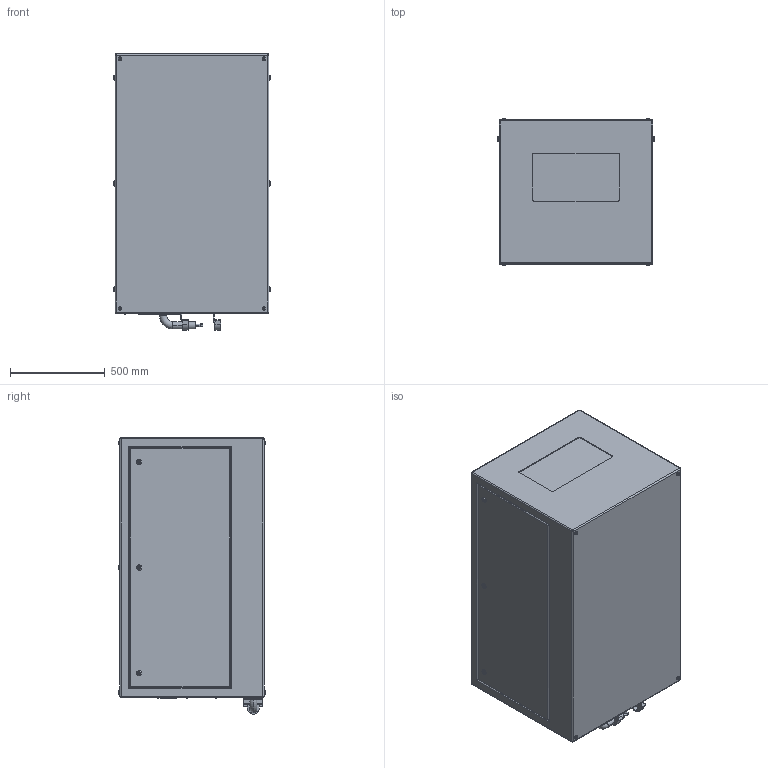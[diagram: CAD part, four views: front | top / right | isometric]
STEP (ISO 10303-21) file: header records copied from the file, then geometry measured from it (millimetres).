
FILE_DESCRIPTION (( 'STEP AP214' ), '1' );
FILE_NAME ('Oasis 59.305.L R02.STEP', '2022-09-12T23:40:39', ( '' ), ( '' ), 'SwSTEP 2.0', 'SolidWorks 2020', '' );
FILE_SCHEMA (( 'AUTOMOTIVE_DESIGN' ));
Length unit declared in the file: inch
Products named in the file (1): Oasis 59.305.L R02
Bounding box: 825.5 x 779.27 x 1460.5 mm (x, y, z)
Volume: 848732376.4 mm3; surface area: 6081143 mm2
Topology: 3 solids, 9 shells, 510 faces, 1167 edges, 740 vertices
Faces by surface type: plane 279, cylinder 177, torus 46, bspline 8
Entity records: 19451 total; most frequent: CARTESIAN_POINT 2930, DIRECTION 2543, ORIENTED_EDGE 2318, EDGE_CURVE 1159, AXIS2_PLACEMENT_3D 913, VERTEX_POINT 740, VECTOR 717, LINE 717
